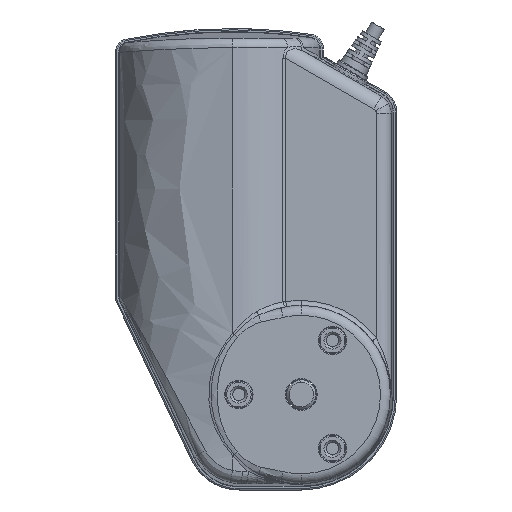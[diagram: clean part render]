
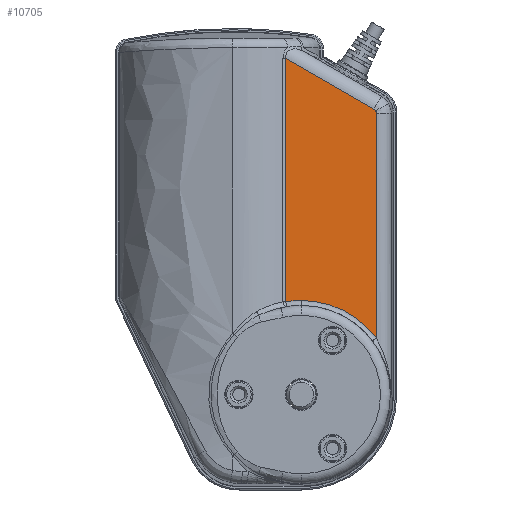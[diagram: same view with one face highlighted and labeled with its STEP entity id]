
A CAD part, left-side view. The second image highlights one B-rep face of the part: STEP entity #10705.
In plain terms, the highlighted planar face has unit normal (-1, 0, 0).
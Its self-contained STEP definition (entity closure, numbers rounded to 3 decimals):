
#25 = VERTEX_POINT ( 'NONE', #125 ) ;
#26 = VERTEX_POINT ( 'NONE', #126 ) ;
#41 = VERTEX_POINT ( 'NONE', #203 ) ;
#125 = CARTESIAN_POINT ( 'NONE',  ( -38.527, -5.479, 62.909 ) ) ;
#126 = CARTESIAN_POINT ( 'NONE',  ( -38.527, -5.479, 162.458 ) ) ;
#203 = CARTESIAN_POINT ( 'NONE',  ( -38.527, -42.509, 139.924 ) ) ;
#664 = CARTESIAN_POINT ( 'NONE',  ( -38.527, -11.802, 63.433 ) ) ;
#685 = CARTESIAN_POINT ( 'NONE',  ( -38.527, -42.509, 48.111 ) ) ;
#689 = CARTESIAN_POINT ( 'NONE',  ( -38.527, -42.241, 140.924 ) ) ;
#704 = CARTESIAN_POINT ( 'NONE',  ( -38.527, -41.51, 141.655 ) ) ;
#3772 = CARTESIAN_POINT ( 'NONE',  ( -38.527, -42.418, 140.618 ) ) ;
#3791 = CARTESIAN_POINT ( 'NONE',  ( -38.527, -42.509, 139.924 ) ) ;
#3805 = CARTESIAN_POINT ( 'NONE',  ( -38.527, -42.241, 140.924 ) ) ;
#3860 = CARTESIAN_POINT ( 'NONE',  ( -38.527, -42.509, 140.277 ) ) ;
#3915 = CARTESIAN_POINT ( 'NONE',  ( -38.527, -1.935, 164.503 ) ) ;
#3920 = DIRECTION ( 'NONE',  ( 0., 0.866, 0.5 ) ) ;
#4127 = VECTOR ( 'NONE', #4204, 1000. ) ;
#4176 = VECTOR ( 'NONE', #3920, 1000. ) ;
#4204 = DIRECTION ( 'NONE',  ( 0., 0., 1. ) ) ;
#4206 = LINE ( 'NONE', #4234, #4127 ) ;
#4227 = LINE ( 'NONE', #3915, #4176 ) ;
#4234 = CARTESIAN_POINT ( 'NONE',  ( -38.527, -42.509, 139.807 ) ) ;
#5959 = CARTESIAN_POINT ( 'NONE',  ( -38.527, -5.479, 60.83 ) ) ;
#5962 = DIRECTION ( 'NONE',  ( 1., 0., 0. ) ) ;
#5966 = CARTESIAN_POINT ( 'NONE',  ( -38.527, -11.802, 25. ) ) ;
#6024 = DIRECTION ( 'NONE',  ( 0., 0., -1. ) ) ;
#6058 = DIRECTION ( 'NONE',  ( 0., 0., 1. ) ) ;
#6318 = CIRCLE ( 'NONE', #23545, 38.433 ) ;
#7012 = VECTOR ( 'NONE', #6024, 1000. ) ;
#7053 = CIRCLE ( 'NONE', #24010, 38.433 ) ;
#7096 = LINE ( 'NONE', #5959, #7012 ) ;
#8876 = VERTEX_POINT ( 'NONE', #664 ) ;
#8878 = VERTEX_POINT ( 'NONE', #685 ) ;
#8893 = VERTEX_POINT ( 'NONE', #689 ) ;
#8932 = VERTEX_POINT ( 'NONE', #704 ) ;
#10170 =( BOUNDED_CURVE ( )  B_SPLINE_CURVE ( 3, ( #21568, #21592, #21570, #21569 ),
 .UNSPECIFIED., .F., .T. ) 
 B_SPLINE_CURVE_WITH_KNOTS ( ( 4, 4 ),
 ( 0., 0.523 ),
 .UNSPECIFIED. ) 
 CURVE ( )  GEOMETRIC_REPRESENTATION_ITEM ( )  RATIONAL_B_SPLINE_CURVE ( ( 1., 0.977, 0.977, 1. ) ) 
 REPRESENTATION_ITEM ( '' )  );
#10201 =( BOUNDED_CURVE ( )  B_SPLINE_CURVE ( 3, ( #3791, #3860, #3772, #3805 ),
 .UNSPECIFIED., .F., .F. ) 
 B_SPLINE_CURVE_WITH_KNOTS ( ( 4, 4 ),
 ( 5.76, 6.283 ),
 .UNSPECIFIED. ) 
 CURVE ( )  GEOMETRIC_REPRESENTATION_ITEM ( )  RATIONAL_B_SPLINE_CURVE ( ( 1., 0.977, 0.977, 1. ) ) 
 REPRESENTATION_ITEM ( '' )  );
#10705 = ADVANCED_FACE ( 'NONE', ( #27735 ), #18036, .F. ) ;
#14288 = EDGE_CURVE ( 'NONE', #8876, #8878, #6318, .T. ) ;
#14289 = EDGE_CURVE ( 'NONE', #8893, #8932, #10170, .T. ) ;
#14489 = EDGE_CURVE ( 'NONE', #26, #25, #7096, .T. ) ;
#14498 = EDGE_CURVE ( 'NONE', #25, #8876, #7053, .T. ) ;
#14659 = EDGE_CURVE ( 'NONE', #41, #8893, #10201, .T. ) ;
#14667 = EDGE_CURVE ( 'NONE', #8932, #26, #4227, .T. ) ;
#14678 = EDGE_CURVE ( 'NONE', #8878, #41, #4206, .T. ) ;
#18032 = DIRECTION ( 'NONE',  ( 1., 0., 0. ) ) ;
#18036 = PLANE ( 'NONE',  #22561 ) ;
#18091 = CARTESIAN_POINT ( 'NONE',  ( -38.527, -11.802, 25. ) ) ;
#18115 = DIRECTION ( 'NONE',  ( 0., 0., 1. ) ) ;
#21556 = DIRECTION ( 'NONE',  ( 1., 0., 0. ) ) ;
#21568 = CARTESIAN_POINT ( 'NONE',  ( -38.527, -42.241, 140.924 ) ) ;
#21569 = CARTESIAN_POINT ( 'NONE',  ( -38.527, -41.51, 141.655 ) ) ;
#21570 = CARTESIAN_POINT ( 'NONE',  ( -38.527, -41.815, 141.479 ) ) ;
#21574 = CARTESIAN_POINT ( 'NONE',  ( -38.527, -11.802, 25. ) ) ;
#21592 = CARTESIAN_POINT ( 'NONE',  ( -38.527, -42.065, 141.229 ) ) ;
#21599 = DIRECTION ( 'NONE',  ( 0., 0., 1. ) ) ;
#22561 = AXIS2_PLACEMENT_3D ( 'NONE', #18091, #18032, #18115 ) ;
#23545 = AXIS2_PLACEMENT_3D ( 'NONE', #21574, #21556, #21599 ) ;
#24010 = AXIS2_PLACEMENT_3D ( 'NONE', #5966, #5962, #6058 ) ;
#26736 = EDGE_LOOP ( 'NONE', ( #28806, #28769, #28755, #28818, #28803, #28756, #28745 ) ) ;
#27735 = FACE_OUTER_BOUND ( 'NONE', #26736, .T. ) ;
#28745 = ORIENTED_EDGE ( 'NONE', *, *, #14667, .T. ) ;
#28755 = ORIENTED_EDGE ( 'NONE', *, *, #14288, .T. ) ;
#28756 = ORIENTED_EDGE ( 'NONE', *, *, #14289, .T. ) ;
#28769 = ORIENTED_EDGE ( 'NONE', *, *, #14498, .T. ) ;
#28803 = ORIENTED_EDGE ( 'NONE', *, *, #14659, .T. ) ;
#28806 = ORIENTED_EDGE ( 'NONE', *, *, #14489, .T. ) ;
#28818 = ORIENTED_EDGE ( 'NONE', *, *, #14678, .T. ) ;
